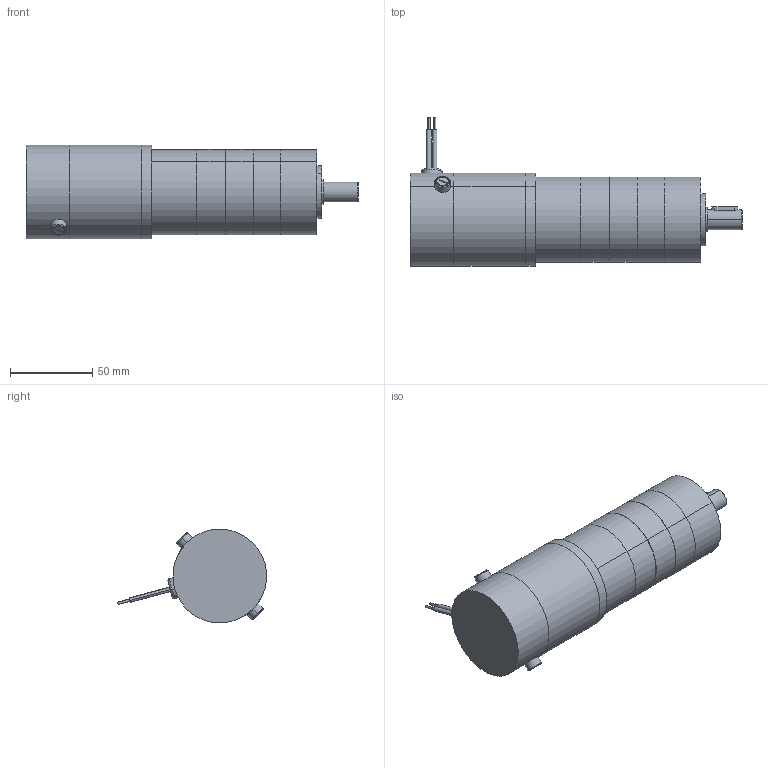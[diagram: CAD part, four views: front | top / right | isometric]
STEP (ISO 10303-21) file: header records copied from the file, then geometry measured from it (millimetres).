
FILE_DESCRIPTION (( 'STEP AP203' ), '1' );
FILE_NAME ('d22301gp3.step', '2018-12-07T19:13:59', ( '' ), ( '' ), 'SwSTEP 2.0', 'SolidWorks 2017', '' );
FILE_SCHEMA (( 'CONFIG_CONTROL_DESIGN' ));
Length unit declared in the file: inch
Products named in the file (1): d22301gp3
Bounding box: 202.3 x 90.76 x 56.93 mm (x, y, z)
Volume: 411842 mm3; surface area: 75794.1 mm2
Topology: 17 solids, 17 shells, 336 faces, 713 edges, 440 vertices
Faces by surface type: cylinder 140, plane 133, cone 53, torus 6, sphere 4
Entity records: 9291 total; most frequent: CARTESIAN_POINT 1734, DIRECTION 1716, ORIENTED_EDGE 1394, EDGE_CURVE 697, AXIS2_PLACEMENT_3D 692, VERTEX_POINT 440, EDGE_LOOP 401, CIRCLE 355
